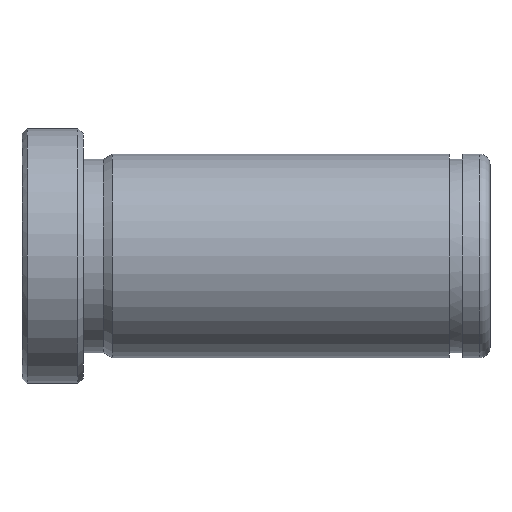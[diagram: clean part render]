
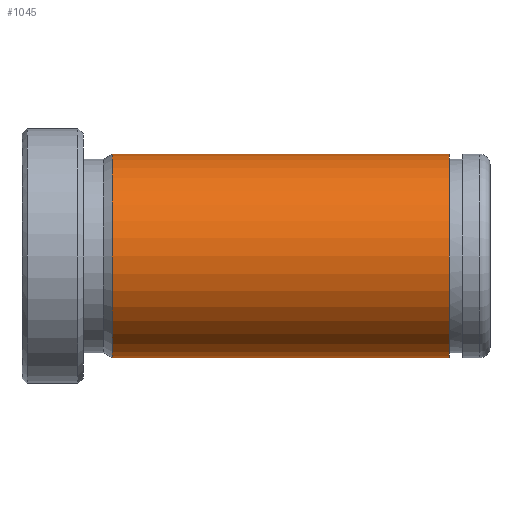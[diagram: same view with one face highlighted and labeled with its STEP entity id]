
A CAD part, front view. The second image highlights one B-rep face of the part: STEP entity #1045.
In plain terms, the highlighted cylindrical face has radius 10 mm (diameter 20 mm), a partial arc.
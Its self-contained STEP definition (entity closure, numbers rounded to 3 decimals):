
#851=CARTESIAN_POINT('Vertex',(8.866,0.,-10.)) ;
#858=CARTESIAN_POINT('Vertex',(8.866,0.,10.)) ;
#887=CARTESIAN_POINT('Axis2P3D Location',(8.866,0.,0.)) ;
#891=CARTESIAN_POINT('Vertex',(8.866,-10.,0.)) ;
#894=CARTESIAN_POINT('Axis2P3D Location',(8.866,0.,0.)) ;
#985=CARTESIAN_POINT('Line Origine',(92.,0.,10.)) ;
#989=CARTESIAN_POINT('Vertex',(42.,0.,10.)) ;
#1003=CARTESIAN_POINT('Vertex',(42.,0.,-10.)) ;
#1006=CARTESIAN_POINT('Line Origine',(92.,0.,-10.)) ;
#1020=CARTESIAN_POINT('Axis2P3D Location',(92.,0.,0.)) ;
#1025=CARTESIAN_POINT('Axis2P3D Location',(42.,0.,0.)) ;
#1029=CARTESIAN_POINT('Vertex',(42.,-10.,0.)) ;
#1032=CARTESIAN_POINT('Axis2P3D Location',(42.,0.,0.)) ;
#888=DIRECTION('Axis2P3D Direction',(1.,0.,-0.)) ;
#895=DIRECTION('Axis2P3D Direction',(1.,0.,-0.)) ;
#986=DIRECTION('Vector Direction',(-1.,0.,0.)) ;
#1007=DIRECTION('Vector Direction',(-1.,0.,0.)) ;
#1021=DIRECTION('Axis2P3D Direction',(-1.,-0.,-0.)) ;
#1022=DIRECTION('Axis2P3D XDirection',(0.,0.,-1.)) ;
#1026=DIRECTION('Axis2P3D Direction',(-1.,-0.,-0.)) ;
#1033=DIRECTION('Axis2P3D Direction',(-1.,-0.,-0.)) ;
#889=AXIS2_PLACEMENT_3D('Circle Axis2P3D',#887,#888,$) ;
#896=AXIS2_PLACEMENT_3D('Circle Axis2P3D',#894,#895,$) ;
#1023=AXIS2_PLACEMENT_3D('Cylinder Axis2P3D',#1020,#1021,#1022) ;
#1027=AXIS2_PLACEMENT_3D('Circle Axis2P3D',#1025,#1026,$) ;
#1034=AXIS2_PLACEMENT_3D('Circle Axis2P3D',#1032,#1033,$) ;
#1038=ORIENTED_EDGE('',*,*,#1010,.T.) ;
#1039=ORIENTED_EDGE('',*,*,#1031,.F.) ;
#1040=ORIENTED_EDGE('',*,*,#1036,.F.) ;
#1041=ORIENTED_EDGE('',*,*,#991,.T.) ;
#1042=ORIENTED_EDGE('',*,*,#898,.T.) ;
#1043=ORIENTED_EDGE('',*,*,#893,.T.) ;
#987=VECTOR('Line Direction',#986,1.) ;
#1008=VECTOR('Line Direction',#1007,1.) ;
#1045=ADVANCED_FACE('553-14x46',(#1044),#1024,.T.) ;
#890=CIRCLE('generated circle',#889,10.) ;
#897=CIRCLE('generated circle',#896,10.) ;
#1028=CIRCLE('generated circle',#1027,10.) ;
#1035=CIRCLE('generated circle',#1034,10.) ;
#1024=CYLINDRICAL_SURFACE('generated cylinder',#1023,10.) ;
#893=EDGE_CURVE('',#892,#852,#890,.T.) ;
#898=EDGE_CURVE('',#859,#892,#897,.T.) ;
#991=EDGE_CURVE('',#990,#859,#988,.T.) ;
#1010=EDGE_CURVE('',#852,#1004,#1009,.F.) ;
#1031=EDGE_CURVE('',#1030,#1004,#1028,.F.) ;
#1036=EDGE_CURVE('',#990,#1030,#1035,.F.) ;
#1037=EDGE_LOOP('',(#1038,#1039,#1040,#1041,#1042,#1043)) ;
#1044=FACE_OUTER_BOUND('',#1037,.T.) ;
#988=LINE('Line',#985,#987) ;
#1009=LINE('Line',#1006,#1008) ;
#852=VERTEX_POINT('',#851) ;
#859=VERTEX_POINT('',#858) ;
#892=VERTEX_POINT('',#891) ;
#990=VERTEX_POINT('',#989) ;
#1004=VERTEX_POINT('',#1003) ;
#1030=VERTEX_POINT('',#1029) ;
